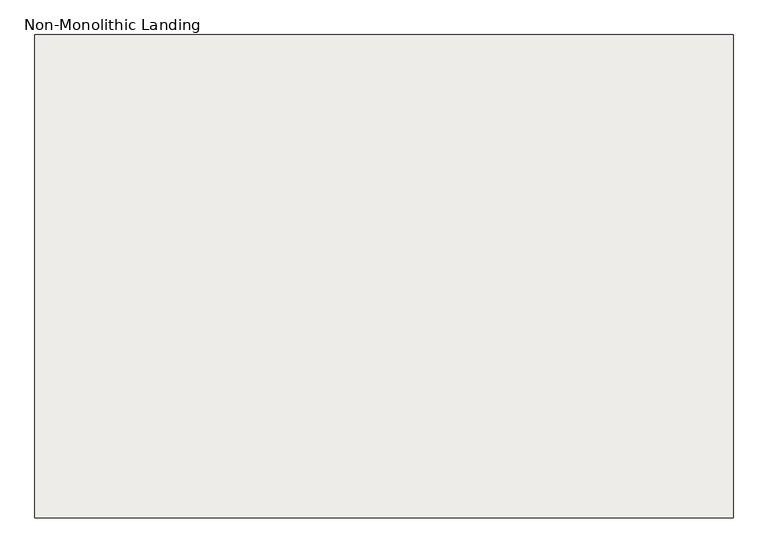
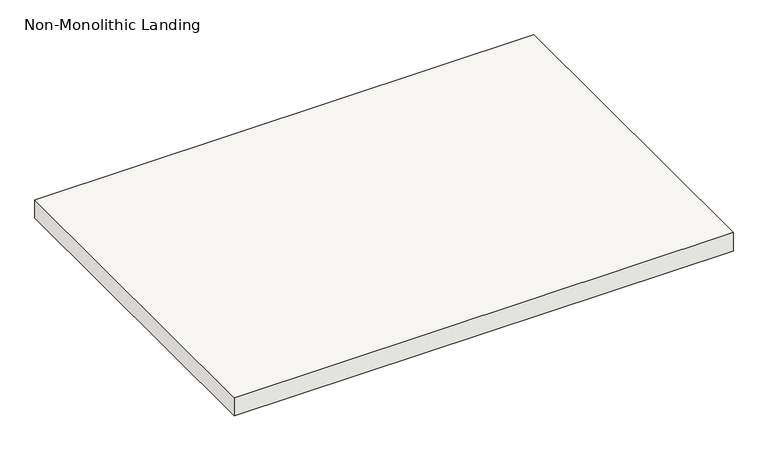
"""IFC4 building model written with IfcOpenShell, lengths in millimetres: slab geometry, Non-Monolithic Landing."""

from ifc_helpers import new_model, si_unit, frame, origin, place, context, project, spatial, polyline, outline, extrude, source, transform, mapped, element, save


def non_monolithic_landing_f6b10c4e(model_context):
    return source(origin(), model_context, "Body", "SweptSolid", [
        extrude(outline(polyline([(161402.126153, 33228.4539886), (162722.926153, 33228.4539886), (162722.926153, 32314.0539886), (161402.126153, 32314.0539886), (161402.126153, 33228.4539886)])), frame((0.0, 0.0, 2126.3428571), z_axis=(0.0, 0.0, 1.0), x_axis=(1.0, 0.0, 0.0)), (0.0, 0.0, 1.0), 50.8),
    ])


if __name__ == "__main__":
    model = new_model("IFC4")
    model_context = context("Model", 3, world=origin())
    ifc_project = project(units=[si_unit("LENGTHUNIT", "METRE", prefix="MILLI")], contexts=[model_context])
    site = spatial("IfcSite", under=ifc_project)
    building = spatial("IfcBuilding", under=site)
    placement = place(None, origin())
    non_monolithic_landing_shape = non_monolithic_landing_f6b10c4e(model_context)
    element("IfcSlab", 1, ObjectType="Non-Monolithic Landing", at=placement, inside=building, context=model_context, shape_type="MappedRepresentation", body=[
        mapped(non_monolithic_landing_shape, transform((0.0, 0.0, 0.0), x_axis=(1.0, 0.0, 0.0), y_axis=(0.0, 1.0, 0.0), z_axis=(0.0, 0.0, 1.0))),
    ])
    save(model, "model.ifc")
